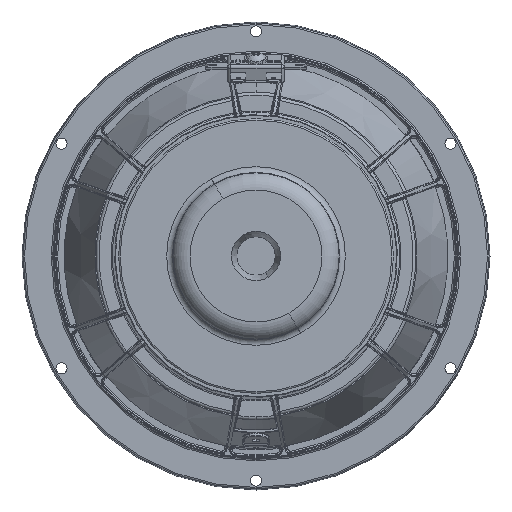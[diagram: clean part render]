
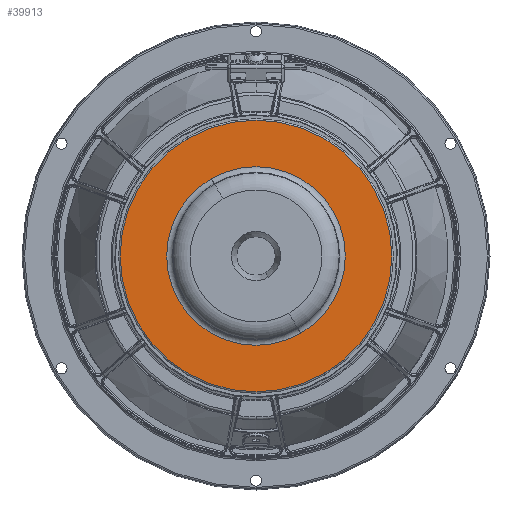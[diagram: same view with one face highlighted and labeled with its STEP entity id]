
A CAD part, front view. The second image highlights one B-rep face of the part: STEP entity #39913.
In plain terms, the highlighted planar face has unit normal (0, -1, 0).
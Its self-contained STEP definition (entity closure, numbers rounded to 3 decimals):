
#811 = AXIS2_PLACEMENT_3D ( 'NONE', #36565, #30581, #58299 ) ;
#1881 = ORIENTED_EDGE ( 'NONE', *, *, #24111, .T. ) ;
#7938 = CIRCLE ( 'NONE', #811, 43.25 ) ;
#8046 = DIRECTION ( 'NONE',  ( 0.5, 0., -0.866 ) ) ;
#14334 = AXIS2_PLACEMENT_3D ( 'NONE', #35970, #18836, #8046 ) ;
#17621 = EDGE_LOOP ( 'NONE', ( #37428, #46149 ) ) ;
#18836 = DIRECTION ( 'NONE',  ( 0., -1., 0. ) ) ;
#19565 = AXIS2_PLACEMENT_3D ( 'NONE', #35507, #57634, #52039 ) ;
#21002 = EDGE_LOOP ( 'NONE', ( #1881, #51491 ) ) ;
#23622 = PLANE ( 'NONE',  #29393 ) ;
#24111 = EDGE_CURVE ( 'NONE', #42932, #42120, #66070, .T. ) ;
#24971 = CIRCLE ( 'NONE', #14334, 28.425 ) ;
#25095 = DIRECTION ( 'NONE',  ( 0., -1., 0. ) ) ;
#28245 = CARTESIAN_POINT ( 'NONE',  ( -14.213, -28., 24.617 ) ) ;
#28253 = DIRECTION ( 'NONE',  ( 0., -1., 0. ) ) ;
#28503 = CARTESIAN_POINT ( 'NONE',  ( 21.625, -28., -37.456 ) ) ;
#28601 = DIRECTION ( 'NONE',  ( 0.5, 0., -0.866 ) ) ;
#29393 = AXIS2_PLACEMENT_3D ( 'NONE', #65871, #25095, #43408 ) ;
#30581 = DIRECTION ( 'NONE',  ( 0., -1., 0. ) ) ;
#33509 = EDGE_CURVE ( 'NONE', #69900, #61752, #24971, .T. ) ;
#34131 = AXIS2_PLACEMENT_3D ( 'NONE', #56732, #28253, #28601 ) ;
#34854 = FACE_OUTER_BOUND ( 'NONE', #21002, .T. ) ;
#35507 = CARTESIAN_POINT ( 'NONE',  ( 0., -28., 0. ) ) ;
#35970 = CARTESIAN_POINT ( 'NONE',  ( 0., -28., 0. ) ) ;
#36565 = CARTESIAN_POINT ( 'NONE',  ( 0., -28., 0. ) ) ;
#37428 = ORIENTED_EDGE ( 'NONE', *, *, #33509, .F. ) ;
#38935 = CIRCLE ( 'NONE', #34131, 28.425 ) ;
#39913 = ADVANCED_FACE ( 'NONE', ( #34854, #52119 ), #23622, .T. ) ;
#42120 = VERTEX_POINT ( 'NONE', #57425 ) ;
#42932 = VERTEX_POINT ( 'NONE', #28503 ) ;
#43408 = DIRECTION ( 'NONE',  ( 0.5, 0., -0.866 ) ) ;
#46149 = ORIENTED_EDGE ( 'NONE', *, *, #49877, .F. ) ;
#49877 = EDGE_CURVE ( 'NONE', #61752, #69900, #38935, .T. ) ;
#51491 = ORIENTED_EDGE ( 'NONE', *, *, #65580, .T. ) ;
#52039 = DIRECTION ( 'NONE',  ( 0.5, 0., -0.866 ) ) ;
#52119 = FACE_BOUND ( 'NONE', #17621, .T. ) ;
#56732 = CARTESIAN_POINT ( 'NONE',  ( 0., -28., 0. ) ) ;
#57425 = CARTESIAN_POINT ( 'NONE',  ( -21.625, -28., 37.456 ) ) ;
#57634 = DIRECTION ( 'NONE',  ( 0., -1., 0. ) ) ;
#58299 = DIRECTION ( 'NONE',  ( 0.5, 0., -0.866 ) ) ;
#61752 = VERTEX_POINT ( 'NONE', #28245 ) ;
#65580 = EDGE_CURVE ( 'NONE', #42120, #42932, #7938, .T. ) ;
#65871 = CARTESIAN_POINT ( 'NONE',  ( 24.617, -28., 14.213 ) ) ;
#66070 = CIRCLE ( 'NONE', #19565, 43.25 ) ;
#69893 = CARTESIAN_POINT ( 'NONE',  ( 14.213, -28., -24.617 ) ) ;
#69900 = VERTEX_POINT ( 'NONE', #69893 ) ;
